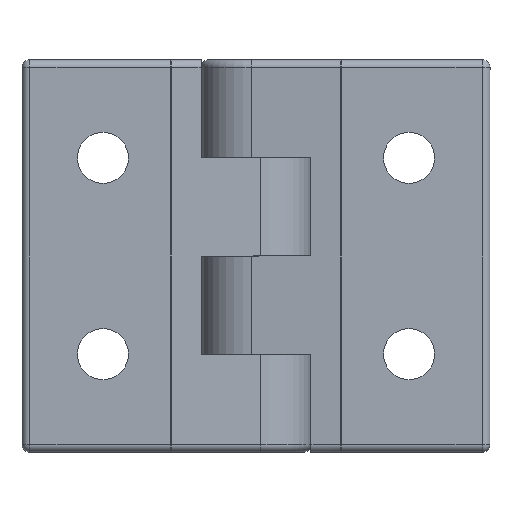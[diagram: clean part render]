
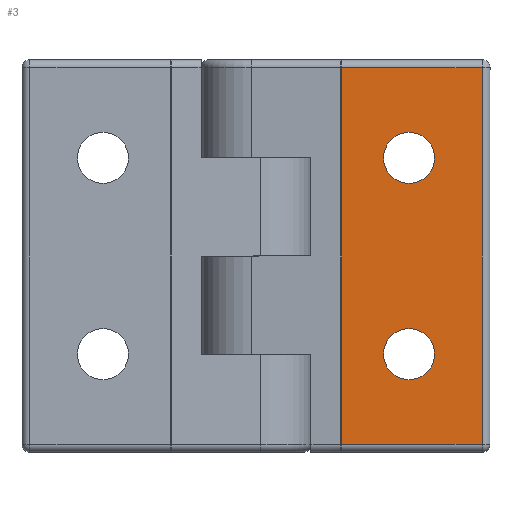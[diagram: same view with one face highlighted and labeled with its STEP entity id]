
A CAD part, front view. The second image highlights one B-rep face of the part: STEP entity #3.
In plain terms, the highlighted planar face has unit normal (0, -1, 0).
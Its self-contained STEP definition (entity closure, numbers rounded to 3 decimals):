
#3 = ADVANCED_FACE ( 'NONE', ( #586, #216, #1408 ), #1239, .F. ) ;
#25 = VERTEX_POINT ( 'NONE', #1083 ) ;
#58 = ORIENTED_EDGE ( 'NONE', *, *, #1746, .T. ) ;
#86 = DIRECTION ( 'NONE',  ( 0., -1., 0. ) ) ;
#97 = VERTEX_POINT ( 'NONE', #648 ) ;
#120 = AXIS2_PLACEMENT_3D ( 'NONE', #846, #981, #1396 ) ;
#121 = ORIENTED_EDGE ( 'NONE', *, *, #291, .T. ) ;
#188 = CARTESIAN_POINT ( 'NONE',  ( 10.835, -7.878, 49. ) ) ;
#190 = VERTEX_POINT ( 'NONE', #537 ) ;
#210 = VECTOR ( 'NONE', #824, 1000. ) ;
#211 = ORIENTED_EDGE ( 'NONE', *, *, #1663, .F. ) ;
#216 = FACE_BOUND ( 'NONE', #417, .T. ) ;
#225 = EDGE_LOOP ( 'NONE', ( #1280, #1274 ) ) ;
#277 = LINE ( 'NONE', #585, #1342 ) ;
#291 = EDGE_CURVE ( 'NONE', #941, #616, #277, .T. ) ;
#298 = VECTOR ( 'NONE', #316, 1000. ) ;
#312 = VERTEX_POINT ( 'NONE', #420 ) ;
#316 = DIRECTION ( 'NONE',  ( -1., 0., 0. ) ) ;
#355 = DIRECTION ( 'NONE',  ( 0., 0., -1. ) ) ;
#417 = EDGE_LOOP ( 'NONE', ( #211, #1508 ) ) ;
#420 = CARTESIAN_POINT ( 'NONE',  ( 19.5, -7.878, 9.25 ) ) ;
#440 = DIRECTION ( 'NONE',  ( 0., 0., -1. ) ) ;
#487 = EDGE_CURVE ( 'NONE', #1465, #941, #1074, .T. ) ;
#514 = DIRECTION ( 'NONE',  ( 1., 0., 0. ) ) ;
#537 = CARTESIAN_POINT ( 'NONE',  ( 19.5, -7.878, 15.75 ) ) ;
#557 = CIRCLE ( 'NONE', #120, 3.25 ) ;
#585 = CARTESIAN_POINT ( 'NONE',  ( 10.874, -7.878, 50. ) ) ;
#586 = FACE_OUTER_BOUND ( 'NONE', #1073, .T. ) ;
#588 = AXIS2_PLACEMENT_3D ( 'NONE', #868, #1284, #440 ) ;
#612 = EDGE_CURVE ( 'NONE', #1455, #25, #1699, .T. ) ;
#616 = VERTEX_POINT ( 'NONE', #1076 ) ;
#648 = CARTESIAN_POINT ( 'NONE',  ( 28.808, -7.878, 1. ) ) ;
#725 = CARTESIAN_POINT ( 'NONE',  ( 10.874, -7.878, 49. ) ) ;
#788 = CARTESIAN_POINT ( 'NONE',  ( 19.5, -7.878, 12.5 ) ) ;
#793 = CARTESIAN_POINT ( 'NONE',  ( 28.808, -7.878, 49. ) ) ;
#796 = EDGE_CURVE ( 'NONE', #190, #312, #557, .T. ) ;
#824 = DIRECTION ( 'NONE',  ( 0., 0., 1. ) ) ;
#828 = CIRCLE ( 'NONE', #894, 3.25 ) ;
#846 = CARTESIAN_POINT ( 'NONE',  ( 19.5, -7.878, 12.5 ) ) ;
#868 = CARTESIAN_POINT ( 'NONE',  ( 19.5, -7.878, 37.5 ) ) ;
#894 = AXIS2_PLACEMENT_3D ( 'NONE', #788, #86, #1380 ) ;
#913 = AXIS2_PLACEMENT_3D ( 'NONE', #1491, #931, #355 ) ;
#931 = DIRECTION ( 'NONE',  ( 0., -1., 0. ) ) ;
#941 = VERTEX_POINT ( 'NONE', #725 ) ;
#962 = LINE ( 'NONE', #1533, #210 ) ;
#981 = DIRECTION ( 'NONE',  ( 0., -1., 0. ) ) ;
#1005 = DIRECTION ( 'NONE',  ( 0., 0., -1. ) ) ;
#1040 = EDGE_CURVE ( 'NONE', #25, #1455, #1673, .T. ) ;
#1073 = EDGE_LOOP ( 'NONE', ( #1339, #121, #58, #1553 ) ) ;
#1074 = LINE ( 'NONE', #188, #298 ) ;
#1076 = CARTESIAN_POINT ( 'NONE',  ( 10.874, -7.878, 1. ) ) ;
#1081 = AXIS2_PLACEMENT_3D ( 'NONE', #1769, #1643, #1242 ) ;
#1083 = CARTESIAN_POINT ( 'NONE',  ( 19.5, -7.878, 40.75 ) ) ;
#1145 = VECTOR ( 'NONE', #514, 1000. ) ;
#1239 = PLANE ( 'NONE',  #1081 ) ;
#1242 = DIRECTION ( 'NONE',  ( 0., 0., 1. ) ) ;
#1274 = ORIENTED_EDGE ( 'NONE', *, *, #1040, .F. ) ;
#1280 = ORIENTED_EDGE ( 'NONE', *, *, #612, .F. ) ;
#1284 = DIRECTION ( 'NONE',  ( 0., -1., 0. ) ) ;
#1339 = ORIENTED_EDGE ( 'NONE', *, *, #487, .T. ) ;
#1342 = VECTOR ( 'NONE', #1005, 1000. ) ;
#1369 = CARTESIAN_POINT ( 'NONE',  ( 19.5, -7.878, 34.25 ) ) ;
#1380 = DIRECTION ( 'NONE',  ( 0., 0., -1. ) ) ;
#1390 = CARTESIAN_POINT ( 'NONE',  ( 10.835, -7.878, 1. ) ) ;
#1396 = DIRECTION ( 'NONE',  ( 0., 0., -1. ) ) ;
#1408 = FACE_BOUND ( 'NONE', #225, .T. ) ;
#1455 = VERTEX_POINT ( 'NONE', #1369 ) ;
#1465 = VERTEX_POINT ( 'NONE', #793 ) ;
#1491 = CARTESIAN_POINT ( 'NONE',  ( 19.5, -7.878, 37.5 ) ) ;
#1508 = ORIENTED_EDGE ( 'NONE', *, *, #796, .F. ) ;
#1533 = CARTESIAN_POINT ( 'NONE',  ( 28.808, -7.878, 50. ) ) ;
#1553 = ORIENTED_EDGE ( 'NONE', *, *, #1741, .T. ) ;
#1643 = DIRECTION ( 'NONE',  ( 0., 1., 0. ) ) ;
#1648 = LINE ( 'NONE', #1390, #1145 ) ;
#1663 = EDGE_CURVE ( 'NONE', #312, #190, #828, .T. ) ;
#1673 = CIRCLE ( 'NONE', #588, 3.25 ) ;
#1699 = CIRCLE ( 'NONE', #913, 3.25 ) ;
#1741 = EDGE_CURVE ( 'NONE', #97, #1465, #962, .T. ) ;
#1746 = EDGE_CURVE ( 'NONE', #616, #97, #1648, .T. ) ;
#1769 = CARTESIAN_POINT ( 'NONE',  ( 10.835, -7.878, 50. ) ) ;
